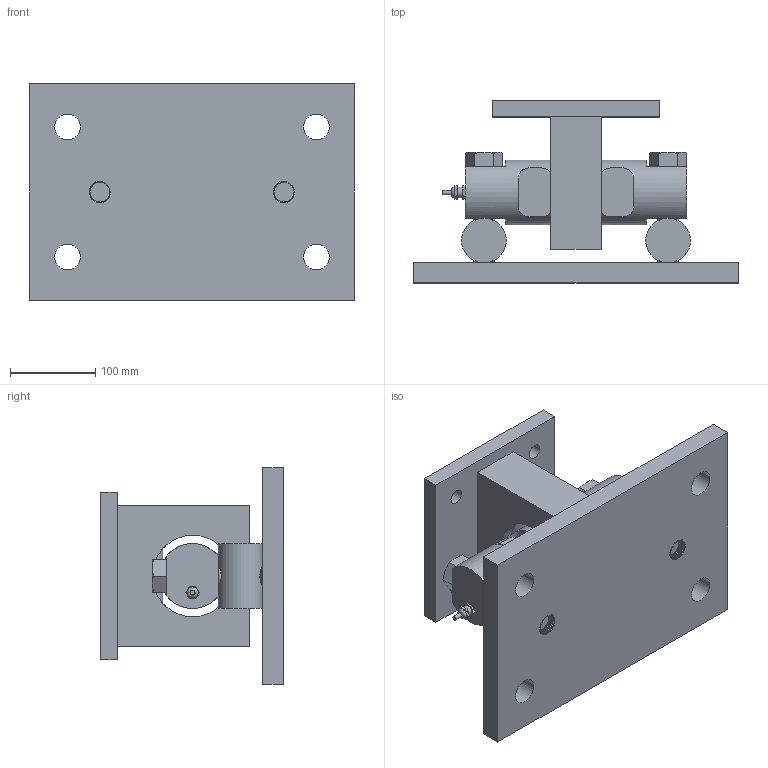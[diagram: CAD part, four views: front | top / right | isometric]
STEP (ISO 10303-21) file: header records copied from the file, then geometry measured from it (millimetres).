
FILE_DESCRIPTION(/* description */ (''),/* implementation_level */ '2;1');
FILE_NAME(/* name */ 'C:/Users/fardi/Dropbox/Work/Anyload/Load Cell Models/Product Catalog 3D/Weight Modules/102/102DHM3/102DHM3-(30-75)klb v8.step',/* time_stamp */ '2020-04-14T12:54:52-07:00',/* author */ (''),/* organization */ (''),/* preprocessor_version */ 'ST-DEVELOPER v18.1',/* originating_system */ 'Autodesk Translation Framework v9.2.0.1227',/* authorisation */ '');
FILE_SCHEMA (('AUTOMOTIVE_DESIGN { 1 0 10303 214 3 1 1 }'));
Length unit declared in the file: millimetre
Products named in the file (7): 102DHM3-(30-75)klb; Base; Support; 102DH-(30-75)klb; Connector; 91257A990; Top
Assembly tree (7 placements, depth 3):
  102DHM3-(30-75)klb
    Base
    Support
    102DH-(30-75)klb
      Connector
    91257A990  x2
    Top
Bounding box: 381 x 213.82 x 254 mm (x, y, z)
Volume: 5435907.4 mm3; surface area: 560676.7 mm2
Topology: 8 solids, 8 shells, 411 faces, 1083 edges, 712 vertices
Faces by surface type: cylinder 258, plane 124, cone 19, bspline 9, torus 1
Full cylindrical faces by diameter (mm): 5.1 x1, 10 x1, 12 x2, 13 x1, 17.3 x4, 23.043 x60, 23.635 x32, 25.4 x88, 26.2 x2, 26.924 x2, 30.2 x4, 52.4 x2, 76.2 x2, 95.3 x1
Entity records: 21829 total; most frequent: CARTESIAN_POINT 14829, ORIENTED_EDGE 1544, DIRECTION 1224, EDGE_CURVE 772, VERTEX_POINT 507, AXIS2_PLACEMENT_3D 434, LINE 356, VECTOR 356
